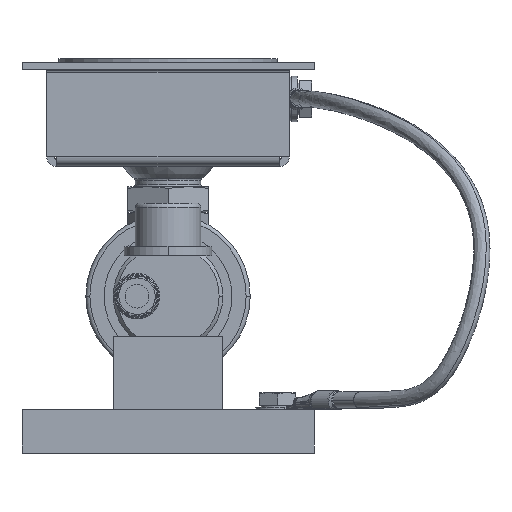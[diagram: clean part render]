
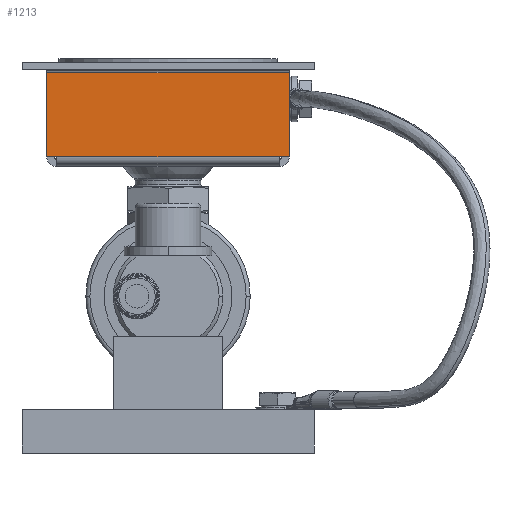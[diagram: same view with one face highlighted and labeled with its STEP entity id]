
A CAD part, front view. The second image highlights one B-rep face of the part: STEP entity #1213.
In plain terms, the highlighted planar face has unit normal (0, -1, 0) as drawn and (-1, 0, 0) by its records, which use the part's own axes.
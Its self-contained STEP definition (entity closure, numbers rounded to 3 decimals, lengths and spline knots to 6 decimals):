
#1213=ADVANCED_FACE('293:1227',(#2273),#2274,.T.);
#2273=FACE_OUTER_BOUND('',#10448,.T.);
#2274=PLANE('',#10449);
#10448=EDGE_LOOP('',(#15271,#15272,#15273,#15274,#15275,#15276));
#10449=AXIS2_PLACEMENT_3D('',#15277,#15278,#15279);
#15271=ORIENTED_EDGE('',*,*,#20373,.F.);
#15272=ORIENTED_EDGE('',*,*,#20371,.T.);
#15273=ORIENTED_EDGE('',*,*,#20370,.T.);
#15274=ORIENTED_EDGE('',*,*,#20364,.F.);
#15275=ORIENTED_EDGE('',*,*,#20359,.F.);
#15276=ORIENTED_EDGE('',*,*,#20356,.F.);
#15277=CARTESIAN_POINT('',(-0.03325,0.0,0.0));
#15278=DIRECTION('',(-1.0,0.0,0.0));
#15279=DIRECTION('',(0.0,-1.0,0.0));
#20356=EDGE_CURVE('325:225',#22592,#22603,#22604,.F.);
#20359=EDGE_CURVE('293:1250',#22603,#22608,#22609,.F.);
#20364=EDGE_CURVE('308:12768',#22608,#22615,#22616,.T.);
#20370=EDGE_CURVE('293:1240',#22618,#22615,#22625,.T.);
#20371=EDGE_CURVE('324:463',#22600,#22618,#22626,.T.);
#20373=EDGE_CURVE('325:228',#22600,#22592,#22628,.F.);
#22592=VERTEX_POINT('',#26900);
#22600=VERTEX_POINT('',#26911);
#22603=VERTEX_POINT('',#26915);
#22604=LINE('',#26916,#26917);
#22608=VERTEX_POINT('',#26923);
#22609=LINE('',#26924,#26925);
#22615=VERTEX_POINT('',#26933);
#22616=LINE('',#26934,#26935);
#22618=VERTEX_POINT('',#26937);
#22625=LINE('',#26947,#26948);
#22626=LINE('',#26949,#26950);
#22628=LINE('',#26953,#26954);
#26900=CARTESIAN_POINT('',(-0.03325,0.0305,0.00275));
#26911=CARTESIAN_POINT('',(-0.03325,-0.0305,0.00275));
#26915=CARTESIAN_POINT('',(-0.03325,0.03325,0.00275));
#26916=CARTESIAN_POINT('',(-0.03325,0.015938,0.00275));
#26917=VECTOR('',#31594,1.0);
#26923=CARTESIAN_POINT('',(-0.03325,0.03325,0.02575));
#26924=CARTESIAN_POINT('',(-0.03325,0.03325,0.0));
#26925=VECTOR('',#31597,1.0);
#26933=CARTESIAN_POINT('',(-0.03325,-0.03325,0.02575));
#26934=CARTESIAN_POINT('',(-0.03325,0.0,0.02575));
#26935=VECTOR('',#31606,1.0);
#26937=CARTESIAN_POINT('',(-0.03325,-0.03325,0.00275));
#26947=CARTESIAN_POINT('',(-0.03325,-0.03325,0.0));
#26948=VECTOR('',#31616,1.0);
#26949=CARTESIAN_POINT('',(-0.03325,-0.015938,0.00275));
#26950=VECTOR('',#31617,1.0);
#26953=CARTESIAN_POINT('',(-0.03325,0.0,0.00275));
#26954=VECTOR('',#31619,1.0);
#31594=DIRECTION('',(-0.0,-1.0,-0.0));
#31597=DIRECTION('',(-0.0,0.0,-1.0));
#31606=DIRECTION('',(-0.0,-1.0,-0.0));
#31616=DIRECTION('',(0.0,0.0,1.0));
#31617=DIRECTION('',(-0.0,-1.0,-0.0));
#31619=DIRECTION('',(0.0,-1.0,0.0));
